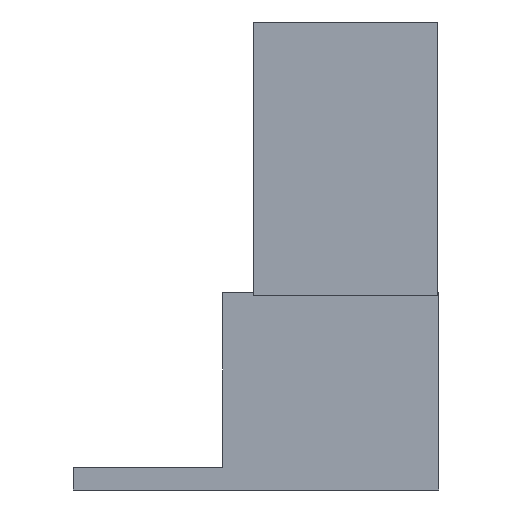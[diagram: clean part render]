
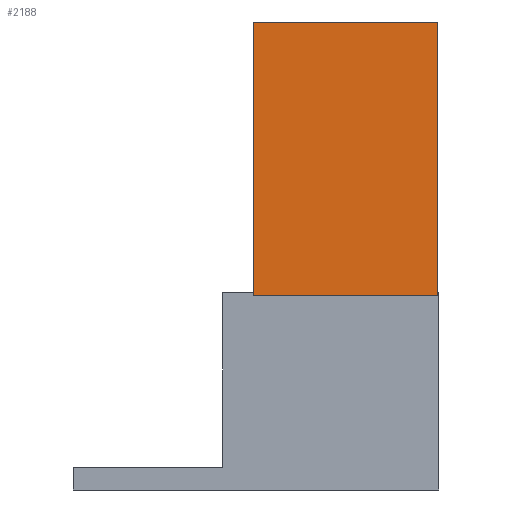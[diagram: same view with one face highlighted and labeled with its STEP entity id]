
A CAD part, left-side view. The second image highlights one B-rep face of the part: STEP entity #2188.
In plain terms, the highlighted planar face has unit normal (-1, 0, 0).
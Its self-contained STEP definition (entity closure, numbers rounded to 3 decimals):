
#486 = PLANE('',#487);
#487 = AXIS2_PLACEMENT_3D('',#488,#489,#490);
#488 = CARTESIAN_POINT('',(-15.2,-18.95,34.5));
#489 = DIRECTION('',(0.,1.,0.));
#490 = DIRECTION('',(0.,0.,1.));
#512 = PLANE('',#513);
#513 = AXIS2_PLACEMENT_3D('',#514,#515,#516);
#514 = CARTESIAN_POINT('',(-15.2,-51.65,34.5));
#515 = DIRECTION('',(0.,0.,1.));
#516 = DIRECTION('',(0.,1.,0.));
#538 = PLANE('',#539);
#539 = AXIS2_PLACEMENT_3D('',#540,#541,#542);
#540 = CARTESIAN_POINT('',(-15.2,-51.65,34.5));
#541 = DIRECTION('',(0.,1.,0.));
#542 = DIRECTION('',(0.,0.,1.));
#1162 = VERTEX_POINT('',#1163);
#1163 = CARTESIAN_POINT('',(-15.2,-51.65,34.5));
#1184 = EDGE_CURVE('',#1162,#1185,#1187,.T.);
#1185 = VERTEX_POINT('',#1186);
#1186 = CARTESIAN_POINT('',(-15.2,-51.65,83.));
#1187 = SURFACE_CURVE('',#1188,(#1192,#1199),.PCURVE_S1.);
#1188 = LINE('',#1189,#1190);
#1189 = CARTESIAN_POINT('',(-15.2,-51.65,34.5));
#1190 = VECTOR('',#1191,1.);
#1191 = DIRECTION('',(0.,0.,1.));
#1192 = PCURVE('',#538,#1193);
#1193 = DEFINITIONAL_REPRESENTATION('',(#1194),#1198);
#1194 = LINE('',#1195,#1196);
#1195 = CARTESIAN_POINT('',(0.,0.));
#1196 = VECTOR('',#1197,1.);
#1197 = DIRECTION('',(1.,0.));
#1198 = ( GEOMETRIC_REPRESENTATION_CONTEXT(2) 
PARAMETRIC_REPRESENTATION_CONTEXT() REPRESENTATION_CONTEXT('2D SPACE',''
  ) );
#1199 = PCURVE('',#1200,#1205);
#1200 = PLANE('',#1201);
#1201 = AXIS2_PLACEMENT_3D('',#1202,#1203,#1204);
#1202 = CARTESIAN_POINT('',(-15.2,-51.65,34.5));
#1203 = DIRECTION('',(1.,0.,0.));
#1204 = DIRECTION('',(0.,1.,0.));
#1205 = DEFINITIONAL_REPRESENTATION('',(#1206),#1210);
#1206 = LINE('',#1207,#1208);
#1207 = CARTESIAN_POINT('',(0.,0.));
#1208 = VECTOR('',#1209,1.);
#1209 = DIRECTION('',(0.,1.));
#1210 = ( GEOMETRIC_REPRESENTATION_CONTEXT(2) 
PARAMETRIC_REPRESENTATION_CONTEXT() REPRESENTATION_CONTEXT('2D SPACE',''
  ) );
#1228 = PLANE('',#1229);
#1229 = AXIS2_PLACEMENT_3D('',#1230,#1231,#1232);
#1230 = CARTESIAN_POINT('',(-15.2,-51.65,83.));
#1231 = DIRECTION('',(0.,0.,1.));
#1232 = DIRECTION('',(0.,1.,0.));
#1436 = VERTEX_POINT('',#1437);
#1437 = CARTESIAN_POINT('',(-15.2,-18.95,34.5));
#1458 = EDGE_CURVE('',#1162,#1436,#1459,.T.);
#1459 = SURFACE_CURVE('',#1460,(#1464,#1471),.PCURVE_S1.);
#1460 = LINE('',#1461,#1462);
#1461 = CARTESIAN_POINT('',(-15.2,-51.65,34.5));
#1462 = VECTOR('',#1463,1.);
#1463 = DIRECTION('',(0.,1.,0.));
#1464 = PCURVE('',#512,#1465);
#1465 = DEFINITIONAL_REPRESENTATION('',(#1466),#1470);
#1466 = LINE('',#1467,#1468);
#1467 = CARTESIAN_POINT('',(0.,0.));
#1468 = VECTOR('',#1469,1.);
#1469 = DIRECTION('',(1.,0.));
#1470 = ( GEOMETRIC_REPRESENTATION_CONTEXT(2) 
PARAMETRIC_REPRESENTATION_CONTEXT() REPRESENTATION_CONTEXT('2D SPACE',''
  ) );
#1471 = PCURVE('',#1200,#1472);
#1472 = DEFINITIONAL_REPRESENTATION('',(#1473),#1477);
#1473 = LINE('',#1474,#1475);
#1474 = CARTESIAN_POINT('',(0.,0.));
#1475 = VECTOR('',#1476,1.);
#1476 = DIRECTION('',(1.,0.));
#1477 = ( GEOMETRIC_REPRESENTATION_CONTEXT(2) 
PARAMETRIC_REPRESENTATION_CONTEXT() REPRESENTATION_CONTEXT('2D SPACE',''
  ) );
#1485 = EDGE_CURVE('',#1436,#1486,#1488,.T.);
#1486 = VERTEX_POINT('',#1487);
#1487 = CARTESIAN_POINT('',(-15.2,-18.95,83.));
#1488 = SURFACE_CURVE('',#1489,(#1493,#1500),.PCURVE_S1.);
#1489 = LINE('',#1490,#1491);
#1490 = CARTESIAN_POINT('',(-15.2,-18.95,34.5));
#1491 = VECTOR('',#1492,1.);
#1492 = DIRECTION('',(0.,0.,1.));
#1493 = PCURVE('',#486,#1494);
#1494 = DEFINITIONAL_REPRESENTATION('',(#1495),#1499);
#1495 = LINE('',#1496,#1497);
#1496 = CARTESIAN_POINT('',(0.,0.));
#1497 = VECTOR('',#1498,1.);
#1498 = DIRECTION('',(1.,0.));
#1499 = ( GEOMETRIC_REPRESENTATION_CONTEXT(2) 
PARAMETRIC_REPRESENTATION_CONTEXT() REPRESENTATION_CONTEXT('2D SPACE',''
  ) );
#1500 = PCURVE('',#1200,#1501);
#1501 = DEFINITIONAL_REPRESENTATION('',(#1502),#1506);
#1502 = LINE('',#1503,#1504);
#1503 = CARTESIAN_POINT('',(32.7,0.));
#1504 = VECTOR('',#1505,1.);
#1505 = DIRECTION('',(0.,1.));
#1506 = ( GEOMETRIC_REPRESENTATION_CONTEXT(2) 
PARAMETRIC_REPRESENTATION_CONTEXT() REPRESENTATION_CONTEXT('2D SPACE',''
  ) );
#2093 = EDGE_CURVE('',#1185,#1486,#2094,.T.);
#2094 = SURFACE_CURVE('',#2095,(#2099,#2106),.PCURVE_S1.);
#2095 = LINE('',#2096,#2097);
#2096 = CARTESIAN_POINT('',(-15.2,-51.65,83.));
#2097 = VECTOR('',#2098,1.);
#2098 = DIRECTION('',(0.,1.,0.));
#2099 = PCURVE('',#1228,#2100);
#2100 = DEFINITIONAL_REPRESENTATION('',(#2101),#2105);
#2101 = LINE('',#2102,#2103);
#2102 = CARTESIAN_POINT('',(0.,0.));
#2103 = VECTOR('',#2104,1.);
#2104 = DIRECTION('',(1.,0.));
#2105 = ( GEOMETRIC_REPRESENTATION_CONTEXT(2) 
PARAMETRIC_REPRESENTATION_CONTEXT() REPRESENTATION_CONTEXT('2D SPACE',''
  ) );
#2106 = PCURVE('',#1200,#2107);
#2107 = DEFINITIONAL_REPRESENTATION('',(#2108),#2112);
#2108 = LINE('',#2109,#2110);
#2109 = CARTESIAN_POINT('',(0.,48.5));
#2110 = VECTOR('',#2111,1.);
#2111 = DIRECTION('',(1.,0.));
#2112 = ( GEOMETRIC_REPRESENTATION_CONTEXT(2) 
PARAMETRIC_REPRESENTATION_CONTEXT() REPRESENTATION_CONTEXT('2D SPACE',''
  ) );
#2188 = ADVANCED_FACE('',(#2189),#1200,.F.);
#2189 = FACE_BOUND('',#2190,.F.);
#2190 = EDGE_LOOP('',(#2191,#2192,#2193,#2194));
#2191 = ORIENTED_EDGE('',*,*,#1184,.F.);
#2192 = ORIENTED_EDGE('',*,*,#1458,.T.);
#2193 = ORIENTED_EDGE('',*,*,#1485,.T.);
#2194 = ORIENTED_EDGE('',*,*,#2093,.F.);
